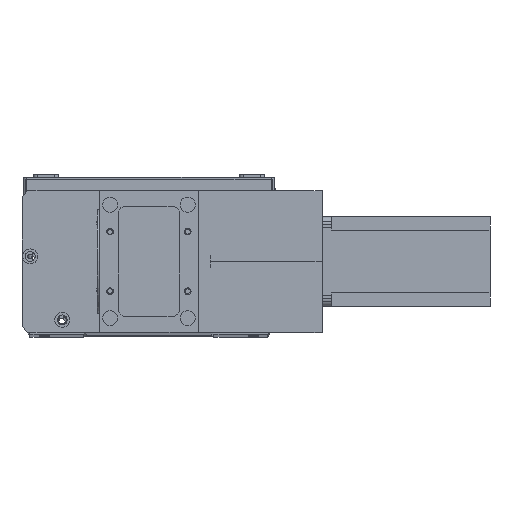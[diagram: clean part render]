
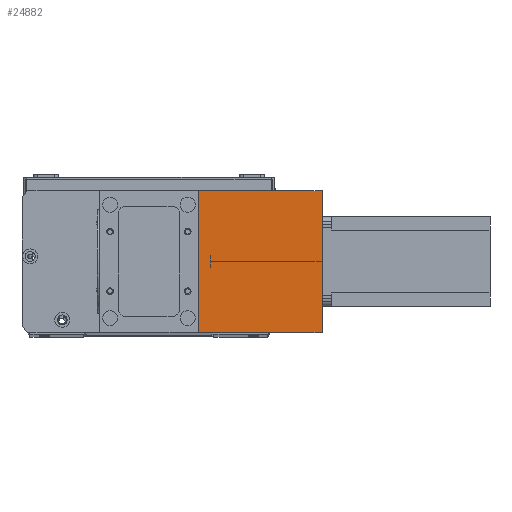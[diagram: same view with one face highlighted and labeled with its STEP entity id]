
A CAD part, top view. The second image highlights one B-rep face of the part: STEP entity #24882.
In plain terms, the highlighted planar face has unit normal (0, 0, 1) as drawn and (1, 0, 0) by its records, which use the part's own axes.
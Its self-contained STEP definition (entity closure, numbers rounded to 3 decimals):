
#1016 = CARTESIAN_POINT ( 'NONE',  ( 82., 95., 83. ) ) ;
#1728 = ORIENTED_EDGE ( 'NONE', *, *, #11429, .F. ) ;
#1841 = DIRECTION ( 'NONE',  ( 0., 1., 0. ) ) ;
#2242 = DIRECTION ( 'NONE',  ( 0., 0., -1. ) ) ;
#2866 = AXIS2_PLACEMENT_3D ( 'NONE', #26615, #7033, #22502 ) ;
#3783 = EDGE_CURVE ( 'NONE', #14044, #20859, #17775, .T. ) ;
#3794 = VECTOR ( 'NONE', #2242, 1000. ) ;
#4426 = CARTESIAN_POINT ( 'NONE',  ( 82., 0., 83. ) ) ;
#4597 = EDGE_LOOP ( 'NONE', ( #10148, #1728, #21075, #22703 ) ) ;
#4748 = CARTESIAN_POINT ( 'NONE',  ( 82., 95., 0. ) ) ;
#5249 = DIRECTION ( 'NONE',  ( 0., 0., -1. ) ) ;
#7033 = DIRECTION ( 'NONE',  ( -1., 0., 0. ) ) ;
#7308 = FACE_OUTER_BOUND ( 'NONE', #4597, .T. ) ;
#10148 = ORIENTED_EDGE ( 'NONE', *, *, #24791, .T. ) ;
#10168 = LINE ( 'NONE', #22124, #21179 ) ;
#11229 = VECTOR ( 'NONE', #16390, 1000. ) ;
#11429 = EDGE_CURVE ( 'NONE', #20859, #15973, #21611, .T. ) ;
#11646 = VECTOR ( 'NONE', #5249, 1000. ) ;
#14044 = VERTEX_POINT ( 'NONE', #4426 ) ;
#15973 = VERTEX_POINT ( 'NONE', #4748 ) ;
#16390 = DIRECTION ( 'NONE',  ( 0., 1., 0. ) ) ;
#17037 = CARTESIAN_POINT ( 'NONE',  ( 82., 0., 83. ) ) ;
#17348 = VERTEX_POINT ( 'NONE', #27034 ) ;
#17486 = LINE ( 'NONE', #18604, #11646 ) ;
#17775 = LINE ( 'NONE', #17037, #11229 ) ;
#18604 = CARTESIAN_POINT ( 'NONE',  ( 82., 0., 83. ) ) ;
#20859 = VERTEX_POINT ( 'NONE', #23242 ) ;
#21075 = ORIENTED_EDGE ( 'NONE', *, *, #3783, .F. ) ;
#21179 = VECTOR ( 'NONE', #1841, 1000. ) ;
#21611 = LINE ( 'NONE', #1016, #3794 ) ;
#22124 = CARTESIAN_POINT ( 'NONE',  ( 82., 0., 0. ) ) ;
#22502 = DIRECTION ( 'NONE',  ( 0., 0., 1. ) ) ;
#22703 = ORIENTED_EDGE ( 'NONE', *, *, #23419, .T. ) ;
#23242 = CARTESIAN_POINT ( 'NONE',  ( 82., 95., 83. ) ) ;
#23419 = EDGE_CURVE ( 'NONE', #14044, #17348, #17486, .T. ) ;
#24791 = EDGE_CURVE ( 'NONE', #17348, #15973, #10168, .T. ) ;
#24882 = ADVANCED_FACE ( 'NONE', ( #7308 ), #27929, .F. ) ;
#26615 = CARTESIAN_POINT ( 'NONE',  ( 82., 0., 83. ) ) ;
#27034 = CARTESIAN_POINT ( 'NONE',  ( 82., 0., 0. ) ) ;
#27929 = PLANE ( 'NONE',  #2866 ) ;
